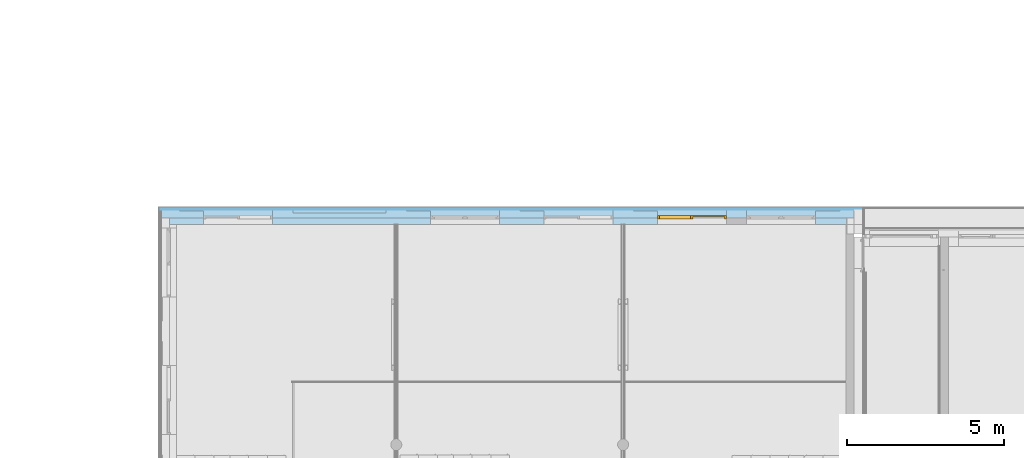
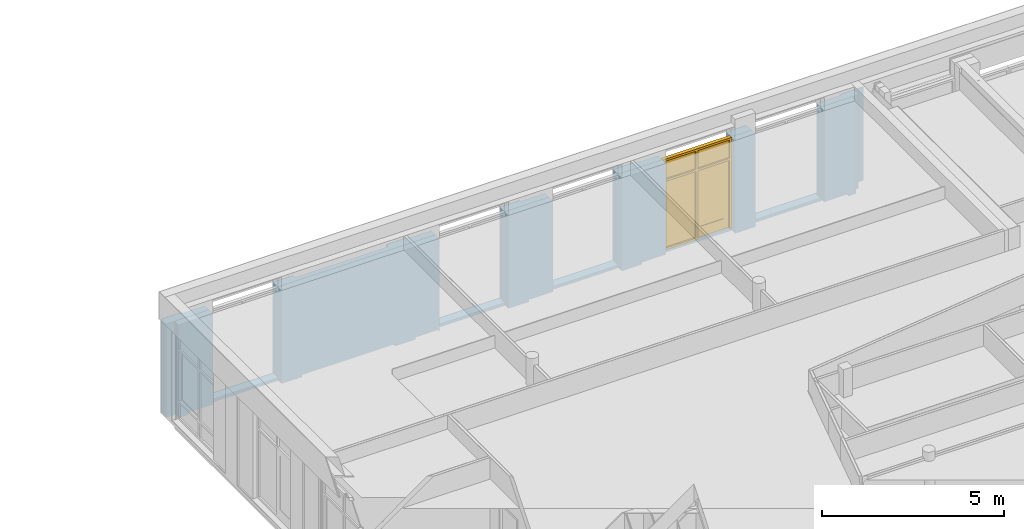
# One storey, part 43 of 167: 1 door, 11 openings, 1 element without a shape of its own, plus 3 elements that do not belong to this part.
"""IFC2X3 building model written with IfcOpenShell, lengths in millimetres."""

from ifc_helpers import new_model, entity, si_unit, converted_unit, derived_unit, money_unit, direction, frame, origin_with_axes, place, context, subcontext, project, spatial, open_shell, faceted_brep, surface_model, material, type_object, element, fill, aggregate, save


model = new_model("IFC2X3")

# Units and contexts
model_context = context("Model", 3, precision=0.01, world=origin_with_axes(), true_north=direction((0.0, 1.0)))
plan_context = context("Plan", 3, precision=0.01, world=origin_with_axes(), true_north=direction((0.0, 1.0)))
body_context = subcontext(model_context, "Body", "Model", "MODEL_VIEW")
ifc_project = project(units=[si_unit("LENGTHUNIT", "METRE", prefix="MILLI"), si_unit("AREAUNIT", "SQUARE_METRE"), si_unit("VOLUMEUNIT", "CUBIC_METRE"), converted_unit("PLANEANGLEUNIT", "DEGREE", entity("IfcPlaneAngleMeasure", 0.0174532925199), si_unit("PLANEANGLEUNIT", "RADIAN"), dimensions=[0, 0, 0, 0, 0, 0, 0]), si_unit("SOLIDANGLEUNIT", "STERADIAN"), money_unit("EUR"), converted_unit("TIMEUNIT", "Year", entity("IfcTimeMeasure", 31556926.0), si_unit("TIMEUNIT", "SECOND"), dimensions=[0, 0, 1, 0, 0, 0, 0]), si_unit("MASSUNIT", "GRAM", prefix="KILO"), si_unit("THERMODYNAMICTEMPERATUREUNIT", "DEGREE_CELSIUS"), si_unit("LUMINOUSINTENSITYUNIT", "LUMEN"), si_unit("ENERGYUNIT", "JOULE", prefix="MEGA"), derived_unit("THERMALCONDUCTANCEUNIT", [(si_unit("POWERUNIT", "WATT"), 1), (si_unit("LENGTHUNIT", "METRE"), -1), (si_unit("THERMODYNAMICTEMPERATUREUNIT", "KELVIN"), -1)]), derived_unit("SPECIFICHEATCAPACITYUNIT", [(si_unit("ENERGYUNIT", "JOULE"), 1), (si_unit("MASSUNIT", "GRAM", prefix="KILO"), -1), (si_unit("THERMODYNAMICTEMPERATUREUNIT", "KELVIN"), -1)]), derived_unit("MASSDENSITYUNIT", [(si_unit("MASSUNIT", "GRAM", prefix="KILO"), 1), (si_unit("VOLUMEUNIT", "CUBIC_METRE"), -1)])], contexts=[model_context, plan_context])

# Site, building, storey
site_placement = place(None, origin_with_axes())
site = spatial("IfcSite", under=ifc_project, at=site_placement, Name="Site", CompositionType="ELEMENT")
building_placement = place(site_placement, origin_with_axes())
building = spatial("IfcBuilding", under=site, at=building_placement, Name="Naam gebouw", CompositionType="ELEMENT")
storey_placement = place(building_placement, origin_with_axes())
storey = spatial("IfcBuildingStorey", under=building, at=storey_placement, Name="Begane grond", CompositionType="ELEMENT", Elevation=0.0)

# Door
door_style = type_object("IfcDoorStyle", Name="D1 bl zl1-b 24", ConstructionType="NOTDEFINED", OperationType="SINGLE_SWING_RIGHT", ParameterTakesPrecedence=False, Sizeable=False)
wall_placement = place(storey_placement, frame((21725.0, 50400.0, -100.0), z_axis=(0.0, 0.0, 1.0), x_axis=(-1.0, 0.0, 0.0)))
opening_11_placement = place(wall_placement, frame((5142.33594407, 0.0, 100.0), z_axis=(0.0, 0.0, 1.0), x_axis=(1.0, 0.0, 0.0)))
door_placement = place(opening_11_placement, frame((1095.0, 0.0, 0.0), z_axis=(0.0, 0.0, 1.0), x_axis=(-1.0, 0.0, 0.0)))
door = element("IfcDoor", 1, at=door_placement, inside=storey, type_object=door_style, Name="32_Deur_He-08", ObjectType="DOOR", OverallHeight=3050.0, OverallWidth=2190.0, context=body_context, shape_type="SurfaceModel", body=[
    faceted_brep([(0.0, 84.0, 0.0), (67.0, 84.0, 0.0), (67.0, -30.0, 0.0), (0.0, -30.0, 0.0), (0.0, 84.0, 2983.0), (67.0, 84.0, 2983.0), (67.0, 84.0, 2367.0), (67.0, 84.0, 2300.0), (67.0, 84.0, 67.0), (67.0, -30.0, 67.0), (67.0, -30.0, 2300.0), (67.0, -30.0, 2367.0), (67.0, -30.0, 2983.0), (0.0, -30.0, 2983.0)], [[[0, 1, 2, 3]], [[0, 4, 5, 6, 7, 8, 1]], [[1, 8, 9, 2]], [[3, 2, 9, 10, 11, 12, 13]], [[4, 0, 3, 13]], [[5, 4, 13, 12]], [[6, 5, 12, 11]], [[7, 6, 11, 10]], [[8, 7, 10, 9]]]),
    faceted_brep([(1123.0, 44.0, 2317.0), (1123.0, 84.0, 2317.0), (1123.0, 84.0, 2367.0), (1123.0, -30.0, 2367.0), (1123.0, -30.0, 2300.0), (1123.0, 44.0, 2300.0), (1106.0, 44.0, 2317.0), (1106.0, 84.0, 2317.0), (1106.0, 84.0, 0.0), (1056.0, 84.0, 0.0), (1056.0, 84.0, 67.0), (1056.0, 84.0, 2300.0), (1056.0, 84.0, 2367.0), (1056.0, 84.0, 2983.0), (1123.0, 84.0, 2983.0), (1123.0, -30.0, 2983.0), (1056.0, -30.0, 2983.0), (1056.0, -30.0, 2367.0), (1056.0, -30.0, 2300.0), (1056.0, -30.0, 67.0), (1056.0, -30.0, 0.0), (1123.0, -30.0, 0.0), (1123.0, 44.0, 0.0), (1106.0, 44.0, 0.0)], [[[0, 1, 2, 3, 4, 5]], [[1, 0, 6, 7]], [[7, 8, 9, 10, 11, 12, 13, 14, 2, 1]], [[14, 15, 3, 2]], [[4, 3, 15, 16, 17, 18, 19, 20, 21]], [[22, 5, 4, 21]], [[0, 5, 22, 23, 6]], [[8, 7, 6, 23]], [[23, 22, 21, 20, 9, 8]], [[9, 20, 19, 10]], [[10, 19, 18, 11]], [[11, 18, 17, 12]], [[12, 17, 16, 13]], [[13, 16, 15, 14]]]),
    faceted_brep([(67.0, 84.0, 67.0), (67.0, 84.0, 0.0), (67.0, -30.0, 0.0), (67.0, -30.0, 67.0), (1056.0, 84.0, 67.0), (1056.0, 84.0, 0.0), (1056.0, -30.0, 0.0), (1056.0, -30.0, 67.0)], [[[0, 1, 2, 3]], [[0, 4, 5, 1]], [[1, 5, 6, 2]], [[3, 2, 6, 7]], [[4, 0, 3, 7]], [[5, 4, 7, 6]]]),
    faceted_brep([(2140.0, 84.0, 2317.0), (2123.0, 84.0, 2317.0), (2123.0, 84.0, 2367.0), (2123.0, 84.0, 2983.0), (2190.0, 84.0, 2983.0), (2190.0, 84.0, 0.0), (2140.0, 84.0, 0.0), (2140.0, 44.0, 2317.0), (2123.0, 44.0, 2317.0), (2123.0, 44.0, 0.0), (2123.0, -30.0, 0.0), (2123.0, -30.0, 2300.0), (2123.0, -30.0, 2367.0), (2123.0, -30.0, 2983.0), (2190.0, -30.0, 2983.0), (2190.0, -30.0, 0.0), (2140.0, 44.0, 0.0)], [[[0, 1, 2, 3, 4, 5, 6]], [[1, 0, 7, 8]], [[8, 9, 10, 11, 12, 2, 1]], [[2, 12, 13, 3]], [[3, 13, 14, 4]], [[4, 14, 15, 5]], [[16, 6, 5, 15, 10, 9]], [[0, 6, 16, 7]], [[16, 9, 8, 7]], [[12, 11, 10, 15, 14, 13]]]),
    faceted_brep([(0.0, 84.0, 3050.0), (0.0, 84.0, 2983.0), (0.0, -30.0, 2983.0), (0.0, -30.0, 3050.0), (2190.0, 84.0, 3050.0), (2190.0, 84.0, 2983.0), (2123.0, 84.0, 2983.0), (1123.0, 84.0, 2983.0), (1056.0, 84.0, 2983.0), (67.0, 84.0, 2983.0), (67.0, -30.0, 2983.0), (1056.0, -30.0, 2983.0), (1123.0, -30.0, 2983.0), (2123.0, -30.0, 2983.0), (2190.0, -30.0, 2983.0), (2190.0, -30.0, 3050.0)], [[[0, 1, 2, 3]], [[0, 4, 5, 6, 7, 8, 9, 1]], [[1, 9, 10, 2]], [[3, 2, 10, 11, 12, 13, 14, 15]], [[4, 0, 3, 15]], [[5, 4, 15, 14]], [[6, 5, 14, 13]], [[7, 6, 13, 12]], [[8, 7, 12, 11]], [[9, 8, 11, 10]]]),
    faceted_brep([(67.0, 84.0, 2300.0), (1056.0, 84.0, 2300.0), (1056.0, -30.0, 2300.0), (67.0, -30.0, 2300.0), (67.0, 84.0, 2367.0), (1056.0, 84.0, 2367.0), (1056.0, -30.0, 2367.0), (67.0, -30.0, 2367.0)], [[[0, 1, 2, 3]], [[0, 4, 5, 1]], [[1, 5, 6, 2]], [[3, 2, 6, 7]], [[4, 0, 3, 7]], [[5, 4, 7, 6]]]),
    faceted_brep([(2123.0, 44.0, 2317.0), (2123.0, 84.0, 2317.0), (2123.0, 84.0, 2367.0), (2123.0, -30.0, 2367.0), (2123.0, -30.0, 2300.0), (2123.0, 44.0, 2300.0), (1123.0, 44.0, 2317.0), (1123.0, 84.0, 2317.0), (1123.0, 84.0, 2367.0), (1123.0, -30.0, 2367.0), (1123.0, -30.0, 2300.0), (1123.0, 44.0, 2300.0)], [[[0, 1, 2, 3, 4, 5]], [[1, 0, 6, 7]], [[1, 7, 8, 2]], [[8, 9, 3, 2]], [[10, 4, 3, 9]], [[11, 5, 4, 10]], [[0, 5, 11, 6]], [[6, 11, 10, 9, 8, 7]]]),
    faceted_brep([(2140.0, 84.0, 350.0), (2140.0, 44.0, 350.0), (1990.0, 44.0, 350.0), (1990.0, 84.0, 350.0), (2140.0, 84.0, 2167.0), (2140.0, 44.0, 2167.0), (1990.0, 44.0, 2167.0), (1990.0, 84.0, 2167.0)], [[[0, 1, 2, 3]], [[4, 5, 1, 0]], [[1, 5, 6, 2]], [[3, 2, 6, 7]], [[0, 3, 7, 4]], [[7, 6, 5, 4]]]),
    faceted_brep([(1106.0, 84.0, 350.0), (1106.0, 44.0, 350.0), (1106.0, 44.0, 2167.0), (1106.0, 84.0, 2167.0), (1256.0, 84.0, 350.0), (1256.0, 44.0, 350.0), (1256.0, 44.0, 2167.0), (1256.0, 84.0, 2167.0)], [[[0, 1, 2, 3]], [[4, 5, 1, 0]], [[1, 5, 6, 2]], [[3, 2, 6, 7]], [[0, 3, 7, 4]], [[7, 6, 5, 4]]]),
    faceted_brep([(2140.0, 84.0, 0.0), (2140.0, 44.0, 0.0), (1106.0, 44.0, 0.0), (1106.0, 84.0, 0.0), (2140.0, 84.0, 350.0), (2140.0, 44.0, 350.0), (1990.0, 44.0, 350.0), (1256.0, 44.0, 350.0), (1106.0, 44.0, 350.0), (1106.0, 84.0, 350.0), (1256.0, 84.0, 350.0), (1990.0, 84.0, 350.0)], [[[0, 1, 2, 3]], [[4, 5, 1, 0]], [[1, 5, 6, 7, 8, 2]], [[3, 2, 8, 9]], [[0, 3, 9, 10, 11, 4]], [[11, 6, 5, 4]], [[10, 7, 6, 11]], [[9, 8, 7, 10]]]),
    faceted_brep([(2140.0, 84.0, 2317.0), (2140.0, 44.0, 2317.0), (2140.0, 44.0, 2167.0), (2140.0, 84.0, 2167.0), (1106.0, 84.0, 2317.0), (1106.0, 44.0, 2317.0), (1106.0, 44.0, 2167.0), (1256.0, 44.0, 2167.0), (1990.0, 44.0, 2167.0), (1990.0, 84.0, 2167.0), (1256.0, 84.0, 2167.0), (1106.0, 84.0, 2167.0)], [[[0, 1, 2, 3]], [[4, 5, 1, 0]], [[1, 5, 6, 7, 8, 2]], [[3, 2, 8, 9]], [[0, 3, 9, 10, 11, 4]], [[11, 6, 5, 4]], [[10, 7, 6, 11]], [[9, 8, 7, 10]]]),
    surface_model("IfcShellBasedSurfaceModel", [(1990.0, 70.0, 350.0), (1256.0, 70.0, 350.0), (1256.0, 70.0, 2167.0), (1990.0, 70.0, 2167.0)], [open_shell([[[0, 1, 2, 3]]])]),
    surface_model("IfcShellBasedSurfaceModel", [(1990.0, 58.0, 350.0), (1990.0, 58.0, 2167.0), (1256.0, 58.0, 2167.0), (1256.0, 58.0, 350.0)], [open_shell([[[0, 1, 2, 3]]])]),
    surface_model("IfcShellBasedSurfaceModel", [(67.0, 30.0, 2367.0), (67.0, 30.0, 2983.0), (1056.0, 30.0, 2983.0), (1056.0, 30.0, 2367.0)], [open_shell([[[0, 1, 2, 3]]])]),
    surface_model("IfcShellBasedSurfaceModel", [(67.0, 18.0, 2367.0), (1056.0, 18.0, 2367.0), (1056.0, 18.0, 2983.0), (67.0, 18.0, 2983.0)], [open_shell([[[0, 1, 2, 3]]])]),
    surface_model("IfcShellBasedSurfaceModel", [(1123.0, 30.0, 2367.0), (1123.0, 30.0, 2983.0), (2123.0, 30.0, 2983.0), (2123.0, 30.0, 2367.0)], [open_shell([[[0, 1, 2, 3]]])]),
    surface_model("IfcShellBasedSurfaceModel", [(1123.0, 18.0, 2367.0), (2123.0, 18.0, 2367.0), (2123.0, 18.0, 2983.0), (1123.0, 18.0, 2983.0)], [open_shell([[[0, 1, 2, 3]]])]),
    surface_model("IfcShellBasedSurfaceModel", [(67.0, 30.0, 67.0), (67.0, 30.0, 2300.0), (1056.0, 30.0, 2300.0), (1056.0, 30.0, 67.0)], [open_shell([[[0, 1, 2, 3]]])]),
    surface_model("IfcShellBasedSurfaceModel", [(67.0, 18.0, 67.0), (1056.0, 18.0, 67.0), (1056.0, 18.0, 2300.0), (67.0, 18.0, 2300.0)], [open_shell([[[0, 1, 2, 3]]])]),
])

# Wall, openings
wall_type = type_object("IfcWallType", Name="_TenW_21_E-BOARD_bg_standaard 498", PredefinedType="NOTDEFINED")
wall = element("IfcWall", 2, at=wall_placement, inside=storey, type_object=wall_type, Name="21_Wand_Wand-x")
opening_1_placement = place(wall_placement, frame((21020.6609441, 0.0, 100.0), z_axis=(0.0, 0.0, 1.0), x_axis=(1.0, 0.0, 0.0)))
element("IfcOpeningElement", 3, at=opening_1_placement, cuts=wall, Name="31_Raam_-", context=body_context, shape_type="Brep", body=[
    faceted_brep([(382.125, -782.0, 0.0), (-382.125, -782.0, 0.0), (-382.125, -224.0, 0.0), (382.125, -224.0, 0.0), (382.125, -782.0, 3050.0), (-382.125, -782.0, 3050.0), (-382.125, -224.0, 3050.0), (382.125, -224.0, 3050.0)], [[[0, 1, 2, 3]], [[0, 4, 5, 1]], [[1, 5, 6, 2]], [[3, 2, 6, 7]], [[4, 0, 3, 7]], [[5, 4, 7, 6]]]),
])
opening_2_placement = place(wall_placement, frame((16325.0859441, 0.0, 100.0), z_axis=(0.0, 0.0, 1.0), x_axis=(1.0, 0.0, 0.0)))
element("IfcOpeningElement", 4, at=opening_2_placement, cuts=wall, Name="31_Raam_-", context=body_context, shape_type="Brep", body=[
    faceted_brep([(1477.4, -782.0, 0.0), (-1477.4, -782.0, 0.0), (-1477.4, -160.0, 0.0), (1477.4, -160.0, 0.0), (1477.4, -782.0, 3050.0), (-1477.4, -782.0, 3050.0), (-1477.4, -160.0, 3050.0), (1477.4, -160.0, 3050.0)], [[[0, 1, 2, 3]], [[0, 4, 5, 1]], [[1, 5, 6, 2]], [[3, 2, 6, 7]], [[4, 0, 3, 7]], [[5, 4, 7, 6]]]),
])
opening_3_placement = place(wall_placement, frame((13820.0609441, 0.0, 100.0), z_axis=(0.0, 0.0, 1.0), x_axis=(1.0, 0.0, 0.0)))
element("IfcOpeningElement", 5, at=opening_3_placement, cuts=wall, Name="31_Raam_-", context=body_context, shape_type="Brep", body=[
    faceted_brep([(382.125, -782.0, 0.0), (-382.125, -782.0, 0.0), (-382.125, -224.0, 0.0), (382.125, -224.0, 0.0), (382.125, -782.0, 3050.0), (-382.125, -782.0, 3050.0), (-382.125, -224.0, 3050.0), (382.125, -224.0, 3050.0)], [[[0, 1, 2, 3]], [[0, 4, 5, 1]], [[1, 5, 6, 2]], [[3, 2, 6, 7]], [[4, 0, 3, 7]], [[5, 4, 7, 6]]]),
])
opening_4_placement = place(wall_placement, frame((10219.7609441, 0.0, 100.0), z_axis=(0.0, 0.0, 1.0), x_axis=(1.0, 0.0, 0.0)))
element("IfcOpeningElement", 6, at=opening_4_placement, cuts=wall, Name="31_Raam_-", context=body_context, shape_type="Brep", body=[
    faceted_brep([(382.125, -782.0, 0.0), (-382.125, -782.0, 0.0), (-382.125, -224.0, 0.0), (382.125, -224.0, 0.0), (382.125, -782.0, 3050.0), (-382.125, -782.0, 3050.0), (-382.125, -224.0, 3050.0), (382.125, -224.0, 3050.0)], [[[0, 1, 2, 3]], [[0, 4, 5, 1]], [[1, 5, 6, 2]], [[3, 2, 6, 7]], [[4, 0, 3, 7]], [[5, 4, 7, 6]]]),
])
opening_5_placement = place(wall_placement, frame((6619.46094407, 0.0, 100.0), z_axis=(0.0, 0.0, 1.0), x_axis=(1.0, 0.0, 0.0)))
element("IfcOpeningElement", 7, at=opening_5_placement, cuts=wall, Name="31_Raam_-", context=body_context, shape_type="Brep", body=[
    faceted_brep([(382.125, -782.0, 0.0), (-382.125, -782.0, 0.0), (-382.125, -224.0, 0.0), (382.125, -224.0, 0.0), (382.125, -782.0, 3050.0), (-382.125, -782.0, 3050.0), (-382.125, -224.0, 3050.0), (382.125, -224.0, 3050.0)], [[[0, 1, 2, 3]], [[0, 4, 5, 1]], [[1, 5, 6, 2]], [[3, 2, 6, 7]], [[4, 0, 3, 7]], [[5, 4, 7, 6]]]),
])
opening_6_placement = place(wall_placement, frame((828.610944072, 0.0, 100.0), z_axis=(0.0, 0.0, 1.0), x_axis=(1.0, 0.0, 0.0)))
element("IfcOpeningElement", 8, at=opening_6_placement, cuts=wall, Name="31_Raam_-", context=body_context, shape_type="Brep", body=[
    faceted_brep([(382.125, -782.0, 0.0), (-382.125, -782.0, 0.0), (-382.125, -224.0, 0.0), (382.125, -224.0, 0.0), (382.125, -782.0, 3050.0), (-382.125, -782.0, 3050.0), (-382.125, -224.0, 3050.0), (382.125, -224.0, 3050.0)], [[[0, 1, 2, 3]], [[0, 4, 5, 1]], [[1, 5, 6, 2]], [[3, 2, 6, 7]], [[4, 0, 3, 7]], [[5, 4, 7, 6]]]),
])
opening_7_placement = place(wall_placement, frame((12342.3859441, 0.0, 100.0), z_axis=(0.0, 0.0, 1.0), x_axis=(1.0, 0.0, 0.0)))
element("IfcOpeningElement", 9, at=opening_7_placement, cuts=wall, Name="31_Raam_He-16", context=body_context, shape_type="Brep", body=[
    faceted_brep([(-1095.0, -84.0, 0.0), (-1095.0, -84.0, 3050.0), (-1095.0, 712.0, 3050.0), (-1095.0, 712.0, 0.0), (1095.0, -84.0, 0.0), (1095.0, -84.0, 3050.0), (1095.0, 712.0, 3050.0), (1095.0, 712.0, 0.0)], [[[0, 1, 2, 3]], [[0, 4, 5, 1]], [[1, 5, 6, 2]], [[3, 2, 6, 7]], [[4, 0, 3, 7]], [[5, 4, 7, 6]]]),
    faceted_brep([(-1095.0, -84.0, 3050.0), (-1095.0, -84.0, 0.0), (-1095.0, -782.0, 0.0), (-1095.0, -782.0, 3050.0), (1095.0, -84.0, 3050.0), (1095.0, -84.0, 0.0), (1095.0, -782.0, 0.0), (1095.0, -782.0, 3050.0)], [[[0, 1, 2, 3]], [[0, 4, 5, 1]], [[1, 5, 6, 2]], [[3, 2, 6, 7]], [[4, 0, 3, 7]], [[5, 4, 7, 6]]]),
])
opening_8_placement = place(wall_placement, frame((2305.73594407, 0.0, 100.0), z_axis=(0.0, 0.0, 1.0), x_axis=(1.0, 0.0, 0.0)))
element("IfcOpeningElement", 10, at=opening_8_placement, cuts=wall, Name="31_Raam_He-16", context=body_context, shape_type="Brep", body=[
    faceted_brep([(-1095.0, -84.0, 0.0), (-1095.0, -84.0, 3050.0), (-1095.0, 712.0, 3050.0), (-1095.0, 712.0, 0.0), (1095.0, -84.0, 0.0), (1095.0, -84.0, 3050.0), (1095.0, 712.0, 3050.0), (1095.0, 712.0, 0.0)], [[[0, 1, 2, 3]], [[0, 4, 5, 1]], [[1, 5, 6, 2]], [[3, 2, 6, 7]], [[4, 0, 3, 7]], [[5, 4, 7, 6]]]),
    faceted_brep([(-1095.0, -84.0, 3050.0), (-1095.0, -84.0, 0.0), (-1095.0, -782.0, 0.0), (-1095.0, -782.0, 3050.0), (1095.0, -84.0, 3050.0), (1095.0, -84.0, 0.0), (1095.0, -782.0, 0.0), (1095.0, -782.0, 3050.0)], [[[0, 1, 2, 3]], [[0, 4, 5, 1]], [[1, 5, 6, 2]], [[3, 2, 6, 7]], [[4, 0, 3, 7]], [[5, 4, 7, 6]]]),
])
opening_9_placement = place(wall_placement, frame((19543.5359441, 0.0, 100.0), z_axis=(0.0, 0.0, 1.0), x_axis=(1.0, 0.0, 0.0)))
element("IfcOpeningElement", 11, at=opening_9_placement, cuts=wall, Name="32_Deur_He-08s", context=body_context, shape_type="Brep", body=[
    faceted_brep([(1095.0, -84.0, 3050.0), (1095.0, -84.0, 0.0), (1095.0, 712.0, 0.0), (1095.0, 712.0, 3050.0), (-1095.0, -84.0, 3050.0), (-1095.0, -84.0, 0.0), (-1095.0, 712.0, 0.0), (-1095.0, 712.0, 3050.0)], [[[0, 1, 2, 3]], [[0, 4, 5, 1]], [[1, 5, 6, 2]], [[3, 2, 6, 7]], [[4, 0, 3, 7]], [[5, 4, 7, 6]]]),
    faceted_brep([(1095.0, -84.0, 0.0), (1095.0, -84.0, 3050.0), (1095.0, -782.0, 3050.0), (1095.0, -782.0, 0.0), (-1095.0, -84.0, 0.0), (-1095.0, -84.0, 3050.0), (-1095.0, -782.0, 3050.0), (-1095.0, -782.0, 0.0)], [[[0, 1, 2, 3]], [[0, 4, 5, 1]], [[1, 5, 6, 2]], [[3, 2, 6, 7]], [[4, 0, 3, 7]], [[5, 4, 7, 6]]]),
])
opening_10_placement = place(wall_placement, frame((8742.63594407, 0.0, 100.0), z_axis=(0.0, 0.0, 1.0), x_axis=(1.0, 0.0, 0.0)))
element("IfcOpeningElement", 12, at=opening_10_placement, cuts=wall, Name="32_Deur_He-08s", context=body_context, shape_type="Brep", body=[
    faceted_brep([(1095.0, -84.0, 3050.0), (1095.0, -84.0, 0.0), (1095.0, 712.0, 0.0), (1095.0, 712.0, 3050.0), (-1095.0, -84.0, 3050.0), (-1095.0, -84.0, 0.0), (-1095.0, 712.0, 0.0), (-1095.0, 712.0, 3050.0)], [[[0, 1, 2, 3]], [[0, 4, 5, 1]], [[1, 5, 6, 2]], [[3, 2, 6, 7]], [[4, 0, 3, 7]], [[5, 4, 7, 6]]]),
    faceted_brep([(1095.0, -84.0, 0.0), (1095.0, -84.0, 3050.0), (1095.0, -782.0, 3050.0), (1095.0, -782.0, 0.0), (-1095.0, -84.0, 0.0), (-1095.0, -84.0, 3050.0), (-1095.0, -782.0, 3050.0), (-1095.0, -782.0, 0.0)], [[[0, 1, 2, 3]], [[0, 4, 5, 1]], [[1, 5, 6, 2]], [[3, 2, 6, 7]], [[4, 0, 3, 7]], [[5, 4, 7, 6]]]),
])
opening_11 = element("IfcOpeningElement", 13, at=opening_11_placement, cuts=wall, Name="32_Deur_He-08", context=body_context, shape_type="Brep", body=[
    faceted_brep([(-1095.0, 712.0, 3050.0), (-1095.0, 712.0, 0.0), (-1095.0, -84.0, 0.0), (-1095.0, -84.0, 3050.0), (1095.0, 712.0, 3050.0), (1095.0, 712.0, 0.0), (1095.0, -84.0, 0.0), (1095.0, -84.0, 3050.0)], [[[0, 1, 2, 3]], [[0, 4, 5, 1]], [[1, 5, 6, 2]], [[3, 2, 6, 7]], [[4, 0, 3, 7]], [[5, 4, 7, 6]]]),
    faceted_brep([(-1095.0, -782.0, 0.0), (-1095.0, -782.0, 3050.0), (-1095.0, -84.0, 3050.0), (-1095.0, -84.0, 0.0), (1095.0, -782.0, 0.0), (1095.0, -782.0, 3050.0), (1095.0, -84.0, 3050.0), (1095.0, -84.0, 0.0)], [[[0, 1, 2, 3]], [[0, 4, 5, 1]], [[1, 5, 6, 2]], [[3, 2, 6, 7]], [[4, 0, 3, 7]], [[5, 4, 7, 6]]]),
])

fill(opening_11, door)

# Building element part
ifc_material_1 = material(Name="Steen - Kalkzandsteen C")
building_element_part_1_placement = place(wall_placement, origin_with_axes())
building_element_part_1 = element("IfcBuildingElementPart", 14, at=building_element_part_1_placement, material=ifc_material_1, Name="Steen - Kalkzandsteen C", context=body_context, shape_type="Brep", body=[
    faceted_brep([(6237.33594407, 214.0, 3150.0), (6237.33594407, 0.0, 3150.0), (7647.63594407, 0.0, 3150.0), (7647.63594407, 214.0, 3150.0), (6237.33594407, 0.0, 100.0), (6237.33594407, 214.0, 100.0), (7001.58594407, 0.0, 100.0), (7001.58594407, 0.0, 30.0), (7647.63594407, 0.0, 30.0), (7647.63594407, 0.0, 100.0), (7647.63594407, 214.0, 100.0), (7647.63594407, 214.0, 30.0), (7001.58594407, 214.0, 30.0), (7001.58594407, 214.0, 100.0)], [[[0, 1, 2, 3]], [[4, 1, 0, 5]], [[1, 4, 6, 7, 8, 9, 2]], [[2, 9, 10, 3]], [[5, 0, 3, 10, 11, 12, 13]], [[4, 5, 13, 6]], [[13, 12, 7, 6]], [[7, 12, 11, 8]], [[9, 8, 11, 10]]]),
    faceted_brep([(14847.6859441, 0.0, 100.0), (17802.4859441, 0.0, 100.0), (17802.4859441, 0.0, 30.0), (18448.5359441, 0.0, 30.0), (18448.5359441, 0.0, 100.0), (18448.5359441, 0.0, 3150.0), (13437.3859441, 0.0, 3150.0), (13437.3859441, 0.0, 100.0), (13437.3859441, 0.0, 30.0), (13437.9359441, 0.0, 30.0), (13437.9359441, 0.0, 100.0), (14202.1859441, 0.0, 100.0), (14202.1859441, 0.0, 30.0), (14847.6859441, 0.0, 30.0), (14847.6859441, 214.0, 100.0), (17802.4859441, 214.0, 100.0), (17802.4859441, 214.0, 30.0), (18448.5359441, 214.0, 30.0), (18448.5359441, 214.0, 100.0), (18448.5359441, 214.0, 3150.0), (13437.3859441, 214.0, 3150.0), (13437.3859441, 214.0, 100.0), (13437.3859441, 214.0, 30.0), (13437.9359441, 214.0, 30.0), (13437.9359441, 214.0, 100.0), (14202.1859441, 214.0, 100.0), (14202.1859441, 214.0, 30.0), (14847.6859441, 214.0, 30.0)], [[[0, 1, 2, 3, 4, 5, 6, 7, 8, 9, 10, 11, 12, 13]], [[1, 0, 14, 15]], [[2, 1, 15, 16]], [[17, 3, 2, 16]], [[18, 4, 3, 17]], [[19, 5, 4, 18]], [[5, 19, 20, 6]], [[21, 7, 6, 20]], [[8, 7, 21, 22]], [[23, 9, 8, 22]], [[10, 9, 23, 24]], [[11, 10, 24, 25]], [[12, 11, 25, 26]], [[27, 13, 12, 26]], [[0, 13, 27, 14]], [[23, 22, 21, 20, 19, 18, 17, 16, 15, 14, 27, 26, 25, 24]]]),
    faceted_brep([(1210.73594407, 0.0, 100.0), (1210.73594407, 0.0, 3150.0), (214.0, 0.0, 3150.0), (214.0, 0.0, 30.0), (446.485944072, 0.0, 30.0), (446.485944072, 0.0, 100.0), (1210.73594407, 214.0, 100.0), (1210.73594407, 214.0, 3150.0), (214.0, 214.0, 3150.0), (214.0, 214.0, 30.0), (446.485944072, 214.0, 30.0), (446.485944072, 214.0, 100.0)], [[[0, 1, 2, 3, 4, 5]], [[0, 6, 7, 1]], [[8, 2, 1, 7]], [[9, 3, 2, 8]], [[10, 4, 3, 9]], [[5, 4, 10, 11]], [[5, 11, 6, 0]], [[7, 6, 11, 10, 9, 8]]]),
    faceted_brep([(11247.3859441, 0.0, 3150.0), (11247.3859441, 214.0, 3150.0), (9837.63594407, 214.0, 3150.0), (9837.63594407, 0.0, 3150.0), (11247.3859441, 0.0, 100.0), (11247.3859441, 214.0, 100.0), (10601.8859441, 214.0, 30.0), (10601.8859441, 214.0, 100.0), (9837.63594407, 214.0, 100.0), (11247.3859441, 214.0, 30.0), (9837.63594407, 0.0, 100.0), (10601.8859441, 0.0, 100.0), (10601.8859441, 0.0, 30.0), (11247.3859441, 0.0, 30.0)], [[[0, 1, 2, 3]], [[4, 5, 1, 0]], [[6, 7, 8, 2, 1, 5, 9]], [[2, 8, 10, 3]], [[4, 0, 3, 10, 11, 12, 13]], [[13, 9, 5, 4]], [[6, 12, 11, 7]], [[7, 11, 10, 8]], [[6, 9, 13, 12]]]),
    faceted_brep([(20638.5359441, 214.0, 3150.0), (20638.5359441, 0.0, 3150.0), (21725.0, 0.0, 3150.0), (21725.0, 214.0, 3150.0), (20638.5359441, 0.0, 100.0), (20638.5359441, 214.0, 100.0), (21402.7859441, 0.0, 100.0), (21402.7859441, 0.0, 30.0), (21725.0, 0.0, 30.0), (21725.0, 214.0, 30.0), (21402.7859441, 214.0, 30.0), (21402.7859441, 214.0, 100.0)], [[[0, 1, 2, 3]], [[4, 1, 0, 5]], [[6, 7, 8, 2, 1, 4]], [[8, 9, 3, 2]], [[3, 9, 10, 11, 5, 0]], [[4, 5, 11, 6]], [[7, 6, 11, 10]], [[7, 10, 9, 8]]]),
    faceted_brep([(4047.33594407, 0.0, 100.0), (4047.33594407, 0.0, 3150.0), (3400.73594407, 0.0, 3150.0), (3400.73594407, 0.0, 100.0), (3400.73594407, 0.0, 30.0), (4047.33594407, 0.0, 30.0), (4047.33594407, 214.0, 3150.0), (4047.33594407, 214.0, 100.0), (3400.73594407, 214.0, 3150.0), (3400.73594407, 214.0, 100.0), (3400.73594407, 214.0, 30.0), (4047.33594407, 214.0, 30.0)], [[[0, 1, 2, 3, 4, 5]], [[6, 1, 0, 7]], [[1, 6, 8, 2]], [[3, 2, 8, 9]], [[3, 9, 10, 4]], [[4, 10, 11, 5]], [[7, 0, 5, 11]], [[6, 7, 11, 10, 9, 8]]]),
])

ifc_material_2 = material(Name="Isolatie - Steenwol zacht")
building_element_part_2_placement = place(wall_placement, origin_with_axes())
building_element_part_2 = element("IfcBuildingElementPart", 15, at=building_element_part_2_placement, material=ifc_material_2, Name="Isolatie - Steenwol zacht", context=body_context, shape_type="Brep", body=[
    faceted_brep([(4047.33594407, -84.0, 100.0), (4047.33594407, -84.0, 3150.0), (4047.33594407, -264.0, 3150.0), (4047.33594407, -264.0, 100.0), (4047.33594407, 0.0, 3150.0), (4047.33594407, 0.0, 100.0), (3400.73594407, 0.0, 3150.0), (3400.73594407, -84.0, 3150.0), (3400.73594407, -264.0, 3150.0), (7647.63594407, -264.0, 3150.0), (7001.58594407, -264.0, 3150.0), (7001.58594407, -264.0, 100.0), (3400.73594407, -264.0, 100.0), (446.485944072, -264.0, 100.0), (446.485944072, -264.0, 3150.0), (0.0, -264.0, 3150.0), (0.0, -264.0, 0.0), (21989.0, -264.0, 0.0), (21989.0, -264.0, 3150.0), (21402.7859441, -264.0, 3150.0), (21402.7859441, -264.0, 100.0), (18448.5359441, -264.0, 100.0), (18448.5359441, -264.0, 3150.0), (17802.4859441, -264.0, 3150.0), (17802.4859441, -264.0, 100.0), (14847.6859441, -264.0, 100.0), (14847.6859441, -264.0, 3150.0), (14202.1859441, -264.0, 3150.0), (14202.1859441, -264.0, 100.0), (13437.9359441, -264.0, 100.0), (13437.9359441, -264.0, 3150.0), (13437.3859441, -264.0, 3150.0), (13437.3859441, -264.0, 100.0), (11247.3859441, -264.0, 100.0), (11247.3859441, -264.0, 3150.0), (10601.8859441, -264.0, 3150.0), (10601.8859441, -264.0, 100.0), (7647.63594407, -264.0, 100.0), (6237.33594407, -84.0, 100.0), (7001.58594407, -224.0, 100.0), (6237.33594407, -224.0, 100.0), (6237.33594407, 0.0, 100.0), (6237.33594407, 0.0, 3150.0), (7647.63594407, 0.0, 3150.0), (7647.63594407, 0.0, 100.0), (9837.63594407, 0.0, 100.0), (9837.63594407, 0.0, 3150.0), (11247.3859441, 0.0, 3150.0), (11247.3859441, 0.0, 100.0), (13437.3859441, 0.0, 100.0), (13437.3859441, 0.0, 3150.0), (18448.5359441, 0.0, 3150.0), (18448.5359441, 0.0, 100.0), (20638.5359441, 0.0, 100.0), (20638.5359441, 0.0, 3150.0), (21989.0, 0.0, 3150.0), (21989.0, 0.0, 0.0), (0.0, 0.0, 0.0), (0.0, 0.0, 3150.0), (1210.73594407, 0.0, 3150.0), (1210.73594407, 0.0, 100.0), (3400.73594407, 0.0, 100.0), (3400.73594407, -84.0, 100.0), (6237.33594407, -84.0, 3150.0), (6237.33594407, -224.0, 3150.0), (7001.58594407, -224.0, 3150.0), (7647.63594407, -84.0, 3150.0), (1210.73594407, -84.0, 100.0), (1210.73594407, -224.0, 100.0), (446.485944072, -224.0, 100.0), (446.485944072, -224.0, 3150.0), (1210.73594407, -224.0, 3150.0), (1210.73594407, -84.0, 3150.0), (20638.5359441, -224.0, 3150.0), (21402.7859441, -224.0, 3150.0), (20638.5359441, -84.0, 3150.0), (21402.7859441, -224.0, 100.0), (20638.5359441, -84.0, 100.0), (18448.5359441, -84.0, 100.0), (20638.5359441, -224.0, 100.0), (18448.5359441, -84.0, 3150.0), (13437.3859441, -84.0, 3150.0), (13437.9359441, -224.0, 3150.0), (14202.1859441, -224.0, 3150.0), (14847.6859441, -160.0, 3150.0), (17802.4859441, -160.0, 3150.0), (17802.4859441, -160.0, 100.0), (14847.6859441, -160.0, 100.0), (14202.1859441, -224.0, 100.0), (13437.9359441, -224.0, 100.0), (13437.3859441, -84.0, 100.0), (11247.3859441, -84.0, 100.0), (11247.3859441, -84.0, 3150.0), (9837.63594407, -224.0, 3150.0), (10601.8859441, -224.0, 3150.0), (9837.63594407, -84.0, 3150.0), (10601.8859441, -224.0, 100.0), (9837.63594407, -84.0, 100.0), (7647.63594407, -84.0, 100.0), (9837.63594407, -224.0, 100.0)], [[[0, 1, 2, 3]], [[4, 1, 0, 5]], [[1, 4, 6, 7, 8, 2]], [[9, 10, 11, 3, 2, 8, 12, 13, 14, 15, 16, 17, 18, 19, 20, 21, 22, 23, 24, 25, 26, 27, 28, 29, 30, 31, 32, 33, 34, 35, 36, 37]], [[38, 0, 3, 11, 39, 40]], [[0, 38, 41, 5]], [[41, 42, 43, 44, 45, 46, 47, 48, 49, 50, 51, 52, 53, 54, 55, 56, 57, 58, 59, 60, 61, 6, 4, 5]], [[6, 61, 62, 7]], [[12, 8, 7, 62]], [[42, 63, 64, 65, 10, 9, 66, 43]], [[39, 11, 10, 65]], [[62, 67, 68, 69, 13, 12]], [[13, 69, 70, 14]], [[15, 14, 70, 71, 72, 59, 58]], [[58, 57, 16, 15]], [[56, 17, 16, 57]], [[17, 56, 55, 18]], [[73, 74, 19, 18, 55, 54, 75]], [[76, 20, 19, 74]], [[77, 78, 21, 20, 76, 79]], [[78, 80, 22, 21]], [[50, 81, 31, 30, 82, 83, 27, 26, 84, 85, 23, 22, 80, 51]], [[85, 86, 24, 23]], [[86, 87, 25, 24]], [[25, 87, 84, 26]], [[27, 83, 88, 28]], [[28, 88, 89, 29]], [[30, 29, 89, 82]], [[81, 90, 32, 31]], [[90, 91, 33, 32]], [[91, 92, 34, 33]], [[93, 94, 35, 34, 92, 47, 46, 95]], [[36, 35, 94, 96]], [[97, 98, 37, 36, 96, 99]], [[9, 37, 98, 66]], [[40, 39, 65, 64]], [[63, 38, 40, 64]], [[38, 63, 42, 41]], [[98, 44, 43, 66]], [[45, 44, 98, 97]], [[46, 45, 97, 95]], [[47, 92, 91, 48]], [[91, 90, 49, 48]], [[90, 81, 50, 49]], [[51, 80, 78, 52]], [[78, 77, 53, 52]], [[77, 75, 54, 53]], [[67, 60, 59, 72]], [[61, 60, 67, 62]], [[71, 68, 67, 72]], [[69, 68, 71, 70]], [[79, 76, 74, 73]], [[75, 77, 79, 73]], [[82, 89, 88, 83]], [[87, 86, 85, 84]], [[94, 93, 99, 96]], [[99, 93, 95, 97]]]),
])

ifc_material_3 = material(Name="_TenW_21_Steen - Baksteen")
building_element_part_3_placement = place(wall_placement, origin_with_axes())
building_element_part_3 = element("IfcBuildingElementPart", 16, at=building_element_part_3_placement, material=ifc_material_3, Name="_TenW_21_Steen - Baksteen", context=body_context, shape_type="Brep", body=[
    faceted_brep([(6237.33594407, -284.0, 100.0), (4047.33594407, -284.0, 100.0), (4047.33594407, -284.0, 3150.0), (3400.73594407, -284.0, 3150.0), (3400.73594407, -284.0, 100.0), (446.485944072, -284.0, 100.0), (446.485944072, -284.0, 3150.0), (-304.0, -284.0, 3150.0), (-304.0, -284.0, 0.0), (22009.0, -284.0, 0.0), (22009.0, -284.0, 3150.0), (21402.7859441, -284.0, 3150.0), (21402.7859441, -284.0, 100.0), (18448.5359441, -284.0, 100.0), (18448.5359441, -284.0, 3150.0), (17802.4859441, -284.0, 3150.0), (17802.4859441, -284.0, 100.0), (14847.6859441, -284.0, 100.0), (14847.6859441, -284.0, 3150.0), (14202.1859441, -284.0, 3150.0), (14202.1859441, -284.0, 100.0), (13437.9359441, -284.0, 100.0), (13437.9359441, -284.0, 3150.0), (13437.3859441, -284.0, 3150.0), (13437.3859441, -284.0, 100.0), (11247.3859441, -284.0, 100.0), (11247.3859441, -284.0, 3150.0), (10601.8859441, -284.0, 3150.0), (10601.8859441, -284.0, 100.0), (7647.63594407, -284.0, 100.0), (7647.63594407, -284.0, 3150.0), (7001.58594407, -284.0, 3150.0), (7001.58594407, -284.0, 100.0), (6237.33594407, -264.0, 100.0), (4047.33594407, -264.0, 100.0), (7001.58594407, -264.0, 100.0), (4047.33594407, -264.0, 3150.0), (3400.73594407, -264.0, 3150.0), (3400.73594407, -264.0, 100.0), (1210.73594407, -264.0, 100.0), (446.485944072, -264.0, 100.0), (446.485944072, -264.0, 3150.0), (-304.0, -264.0, 3150.0), (-304.0, -264.0, 0.0), (22009.0, -264.0, 0.0), (22009.0, -264.0, 3150.0), (21402.7859441, -264.0, 3150.0), (21402.7859441, -264.0, 100.0), (20638.5359441, -264.0, 100.0), (18448.5359441, -264.0, 100.0), (18448.5359441, -264.0, 3150.0), (17802.4859441, -264.0, 3150.0), (17802.4859441, -264.0, 100.0), (14847.6859441, -264.0, 100.0), (14847.6859441, -264.0, 3150.0), (14202.1859441, -264.0, 3150.0), (14202.1859441, -264.0, 100.0), (13437.9359441, -264.0, 100.0), (13437.9359441, -264.0, 3150.0), (13437.3859441, -264.0, 3150.0), (13437.3859441, -264.0, 100.0), (11247.3859441, -264.0, 100.0), (11247.3859441, -264.0, 3150.0), (10601.8859441, -264.0, 3150.0), (10601.8859441, -264.0, 100.0), (9837.63594407, -264.0, 100.0), (7647.63594407, -264.0, 100.0), (7647.63594407, -264.0, 3150.0), (7001.58594407, -264.0, 3150.0)], [[[0, 1, 2, 3, 4, 5, 6, 7, 8, 9, 10, 11, 12, 13, 14, 15, 16, 17, 18, 19, 20, 21, 22, 23, 24, 25, 26, 27, 28, 29, 30, 31, 32]], [[33, 34, 1, 0, 32, 35]], [[36, 2, 1, 34]], [[2, 36, 37, 3]], [[38, 4, 3, 37]], [[38, 39, 40, 5, 4]], [[6, 5, 40, 41]], [[41, 42, 7, 6]], [[42, 43, 8, 7]], [[44, 9, 8, 43]], [[9, 44, 45, 10]], [[10, 45, 46, 11]], [[46, 47, 12, 11]], [[47, 48, 49, 13, 12]], [[13, 49, 50, 14]], [[51, 15, 14, 50]], [[15, 51, 52, 16]], [[16, 52, 53, 17]], [[18, 17, 53, 54]], [[55, 19, 18, 54]], [[20, 19, 55, 56]], [[21, 20, 56, 57]], [[58, 22, 21, 57]], [[59, 23, 22, 58]], [[24, 23, 59, 60]], [[25, 24, 60, 61]], [[62, 26, 25, 61]], [[26, 62, 63, 27]], [[64, 28, 27, 63]], [[29, 28, 64, 65, 66]], [[30, 29, 66, 67]], [[67, 68, 31, 30]], [[68, 35, 32, 31]], [[34, 33, 35, 68, 67, 66, 65, 64, 63, 62, 61, 60, 59, 58, 57, 56, 55, 54, 53, 52, 51, 50, 49, 48, 47, 46, 45, 44, 43, 42, 41, 40, 39, 38, 37, 36]]]),
])

aggregate(wall, [building_element_part_1, building_element_part_2, building_element_part_3])

save(model, "model.ifc")
